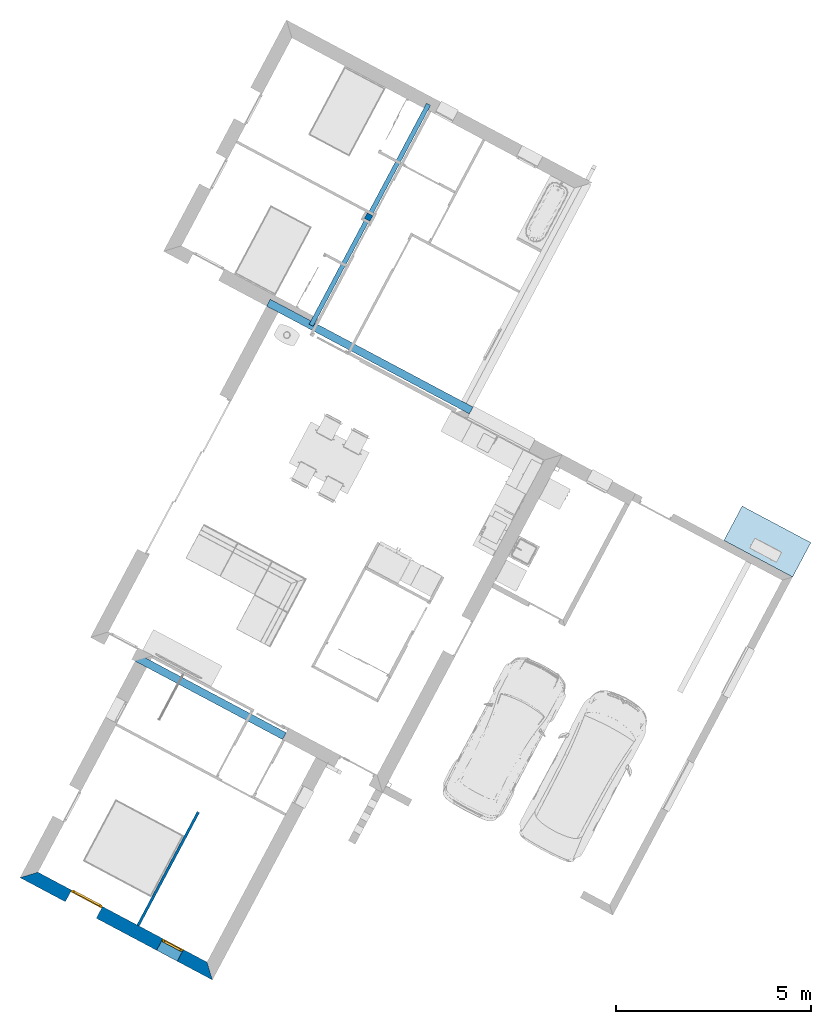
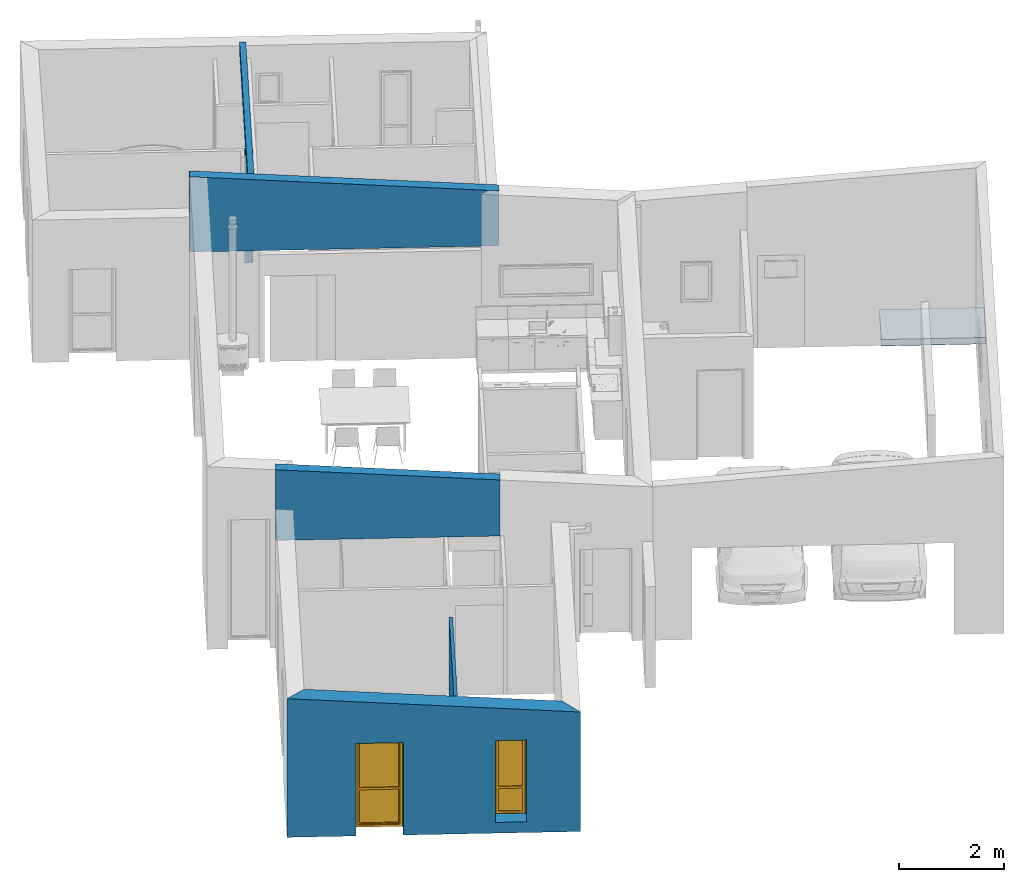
# One storey, part 1 of 27: 3 beams, 2 walls, 2 windows, 1 column, 1 slab, 2 openings.
"""IFC2X3 building model written with IfcOpenShell, lengths in metres."""

import ifcopenshell
import ifcopenshell.guid

model = None  # the IFC model being written
_history = None  # IfcOwnerHistory: only IFC2X3 demands one
_inside = {}  # id of a spatial element -> (the spatial element, [elements in it])
_under = {}  # id of a project, library or spatial element -> (it, [spatial elements below it])
_declared = {}  # id of a project -> (the project, [libraries it declares])
_typed = {}  # id of a type object -> (the type object, [elements of that type])
_made_of = {}  # id of a material, layer set ... -> (it, [elements and type objects made of it])


def new_model(schema):
    """Start an empty IFC model of exactly this schema.

    Asked for "IFC4X3", IfcOpenShell would pick the latest addendum, in which some entities
    have other attributes; the version numbers below select the first issue.
    IFC2X3 requires an IfcOwnerHistory on every rooted entity: one is made here for all.
    """
    global model, _history
    if schema == "IFC4X3":
        model = ifcopenshell.file(schema_version=(4, 3, 0, 0))
    else:
        model = ifcopenshell.file(schema=schema)
    _inside.clear()
    _under.clear()
    _declared.clear()
    _typed.clear()
    _made_of.clear()
    _history = None
    if model.schema == "IFC2X3":
        org = make("IfcOrganization", Name="unknown")
        user = make(
            "IfcPersonAndOrganization",
            ThePerson=make("IfcPerson", FamilyName="unknown"),
            TheOrganization=org,
        )
        app = make(
            "IfcApplication",
            ApplicationDeveloper=org,
            Version="unknown",
            ApplicationFullName="unknown",
            ApplicationIdentifier="unknown",
        )
        _history = make(
            "IfcOwnerHistory",
            OwningUser=user,
            OwningApplication=app,
            ChangeAction="ADDED",
            CreationDate=0,
        )
    return model


def make(cls, **values):
    """One entity of the class cls with the attributes given. An attribute that is None is left unset."""
    return model.create_entity(
        cls, **{name: value for name, value in values.items() if value is not None}
    )


def entity(cls, *values):
    """Any entity or typed value of the class cls, its attributes in the order of the schema. None: left unset."""
    e = model.create_entity(cls)
    for i, value in enumerate(values):
        if value is not None:
            e[i] = value
    return e


def rooted(cls, **values):
    """An entity with a GlobalId (a new one), such as an element, a storey or a relation."""
    return make(cls, GlobalId=ifcopenshell.guid.new(), OwnerHistory=_history, **values)


def si_unit(unit_type, name, prefix=None):
    """IfcSIUnit, for example si_unit("LENGTHUNIT", "METRE", prefix="MILLI")."""
    return make("IfcSIUnit", UnitType=unit_type, Prefix=prefix, Name=name)


def converted_unit(unit_type, name, factor, base, dimensions=None, offset=None):
    """IfcConversionBasedUnit, such as the inch: factor (a typed value) times the base unit."""
    return make(
        "IfcConversionBasedUnit"
        if offset is None
        else "IfcConversionBasedUnitWithOffset",
        ConversionOffset=offset,
        Dimensions=None
        if dimensions is None
        else entity("IfcDimensionalExponents", *dimensions),
        UnitType=unit_type,
        Name=name,
        ConversionFactor=make(
            "IfcMeasureWithUnit", ValueComponent=factor, UnitComponent=base
        ),
    )


def derived_unit(unit_type, elements):
    """IfcDerivedUnit: a product of units, each with its exponent."""
    return make(
        "IfcDerivedUnit",
        Elements=[
            make("IfcDerivedUnitElement", Unit=unit, Exponent=power)
            for unit, power in elements
        ],
        UnitType=unit_type,
    )


def money_unit(currency):
    """IfcMonetaryUnit."""
    return make("IfcMonetaryUnit", Currency=currency)


def assignment(units):
    """IfcUnitAssignment: the units of a project."""
    return None if units is None else make("IfcUnitAssignment", Units=units)


def point(xyz):
    """IfcCartesianPoint."""
    return None if xyz is None else make("IfcCartesianPoint", Coordinates=xyz)


def direction(xyz):
    """IfcDirection."""
    return None if xyz is None else make("IfcDirection", DirectionRatios=xyz)


def frame(location, z_axis=None, x_axis=None):
    """IfcAxis2Placement3D, a coordinate frame: its origin and axes. An axis left out is left unset."""
    return make(
        "IfcAxis2Placement3D",
        Location=point(location),
        Axis=direction(z_axis),
        RefDirection=direction(x_axis),
    )


def frame_2d(location, x_axis=None):
    """IfcAxis2Placement2D, a coordinate frame in the plane: its origin and x axis."""
    return make(
        "IfcAxis2Placement2D", Location=point(location), RefDirection=direction(x_axis)
    )


def origin_with_axes():
    """The frame at (0, 0, 0) with the z axis (0, 0, 1) and the x axis (1, 0, 0) written out."""
    return frame((0.0, 0.0, 0.0), z_axis=(0.0, 0.0, 1.0), x_axis=(1.0, 0.0, 0.0))


def origin_2d_with_axis():
    """The frame at (0, 0) in the plane with the x axis (1, 0) written out."""
    return frame_2d((0.0, 0.0), x_axis=(1.0, 0.0))


def place(relative_to, where):
    """IfcLocalPlacement: puts the frame where relative to a parent placement (None: the world)."""
    return make(
        "IfcLocalPlacement", PlacementRelTo=relative_to, RelativePlacement=where
    )


def context(
    kind, dimensions, precision=None, world=None, true_north=None, identifier=None
):
    """IfcGeometricRepresentationContext, for example the 3D "Model" context."""
    return make(
        "IfcGeometricRepresentationContext",
        ContextIdentifier=identifier,
        ContextType=kind,
        CoordinateSpaceDimension=dimensions,
        Precision=precision,
        WorldCoordinateSystem=world,
        TrueNorth=true_north,
    )


def subcontext(parent, identifier, kind, view, scale=None):
    """IfcGeometricRepresentationSubContext, for example "Body" below "Model"."""
    return make(
        "IfcGeometricRepresentationSubContext",
        ContextIdentifier=identifier,
        ContextType=kind,
        ParentContext=parent,
        TargetScale=scale,
        TargetView=view,
    )


def project(units=None, contexts=None):
    """IfcProject with its units and contexts."""
    return rooted(
        "IfcProject",
        Name="project",
        RepresentationContexts=contexts,
        UnitsInContext=assignment(units),
    )


def spatial(cls, under=None, at=None, **own):
    """A site, building, storey or space (cls), placed at a placement, below another one or the project."""
    s = rooted(cls, ObjectPlacement=at, **own)
    if under is not None:
        _under.setdefault(under.id(), (under, []))[1].append(s)
    return s


def polyline(points):
    """IfcPolyline through the points."""
    return make("IfcPolyline", Points=[point(p) for p in points])


def profile(cls, at=None, kind="AREA", **sizes):
    """A parametric profile (cls). Its sizes go by their IFC names, for example OverallWidth=200.0."""
    return make(cls, ProfileType=kind, Position=at, **sizes)


def rectangle(**sizes):
    """IfcRectangleProfileDef."""
    return profile("IfcRectangleProfileDef", **sizes)


def outline(outer, holes=None, kind="AREA"):
    """IfcArbitraryClosedProfileDef: a profile drawn as a closed curve; with holes, ...WithVoids."""
    if holes is None:
        return make("IfcArbitraryClosedProfileDef", ProfileType=kind, OuterCurve=outer)
    return make(
        "IfcArbitraryProfileDefWithVoids",
        ProfileType=kind,
        OuterCurve=outer,
        InnerCurves=holes,
    )


def extrude(swept, where, along, depth):
    """IfcExtrudedAreaSolid: the profile swept, set in the frame where, extruded along a direction by depth."""
    return make(
        "IfcExtrudedAreaSolid",
        SweptArea=swept,
        Position=where,
        ExtrudedDirection=direction(along),
        Depth=depth,
    )


def clip(a, b, op="DIFFERENCE"):
    """IfcBooleanClippingResult: the solid a cut by the half space b."""
    return make(
        "IfcBooleanClippingResult", Operator=op, FirstOperand=a, SecondOperand=b
    )


def halfspace(plane, agree):
    """IfcHalfSpaceSolid: all space on one side of the plane z = 0 of the frame plane."""
    return make(
        "IfcHalfSpaceSolid",
        BaseSurface=make("IfcPlane", Position=plane),
        AgreementFlag=agree,
    )


def bounded_halfspace(plane, agree, where, boundary):
    """IfcPolygonalBoundedHalfSpace: a half space limited to a polygon's prism."""
    return make(
        "IfcPolygonalBoundedHalfSpace",
        BaseSurface=make("IfcPlane", Position=plane),
        AgreementFlag=agree,
        Position=where,
        PolygonalBoundary=boundary,
    )


def faces_of(points, faces, orient=None, outer=None):
    """IfcFace entities. A face is a list of loops; a loop is a list of indices into points, from 0.

    orient and outer hold one flag for each loop. By default every Orientation is true, the
    first loop of a face is its IfcFaceOuterBound and the others are IfcFaceBound.
    """
    made = []
    for i, loops in enumerate(faces):
        bounds = []
        for j, loop in enumerate(loops):
            is_outer = j == 0 if outer is None else outer[i][j]
            bounds.append(
                make(
                    "IfcFaceOuterBound" if is_outer else "IfcFaceBound",
                    Bound=make("IfcPolyLoop", Polygon=[points[k] for k in loop]),
                    Orientation=True if orient is None else orient[i][j],
                )
            )
        made.append(make("IfcFace", Bounds=bounds))
    return made


def open_shell(faces, orient=None, outer=None):
    """The faces of one IfcOpenShell. surface_model builds it on its shared points."""
    return ("IfcOpenShell", faces, orient, outer)


def faceted_brep(points, faces, orient=None, outer=None, voids=None):
    """IfcFacetedBrep: a solid bounded by flat faces; with voids (closed shells), ...WithVoids."""
    shared = [point(p) for p in points]
    hull = make("IfcClosedShell", CfsFaces=faces_of(shared, faces, orient, outer))
    if voids is None:
        return make("IfcFacetedBrep", Outer=hull)
    return make(
        "IfcFacetedBrepWithVoids",
        Outer=hull,
        Voids=[
            make(cls, CfsFaces=faces_of(shared, fs, o, b)) for cls, fs, o, b in voids
        ],
    )


def surface_model(cls, points, shells):
    """IfcFaceBasedSurfaceModel or IfcShellBasedSurfaceModel (cls): surfaces that need not close."""
    shared = [point(p) for p in points]
    made = [make(c, CfsFaces=faces_of(shared, fs, o, b)) for c, fs, o, b in shells]
    if cls == "IfcFaceBasedSurfaceModel":
        return make(cls, FbsmFaces=made)
    return make(cls, SbsmBoundary=made)


def shape(context_of_items, identifier, shape_type, items):
    """IfcShapeRepresentation: the items that make up one representation, for example the "Body"."""
    return make(
        "IfcShapeRepresentation",
        ContextOfItems=context_of_items,
        RepresentationIdentifier=identifier,
        RepresentationType=shape_type,
        Items=items,
    )


def source(mapping_origin, context_of_items, identifier, shape_type, items):
    """IfcRepresentationMap: a shape defined once, which mapped items show again and again."""
    return make(
        "IfcRepresentationMap",
        MappingOrigin=mapping_origin,
        MappedRepresentation=shape(context_of_items, identifier, shape_type, items),
    )


def transform(
    local_origin,
    x_axis=None,
    y_axis=None,
    z_axis=None,
    scale=None,
    scale2=None,
    scale3=None,
    uniform=True,
):
    """IfcCartesianTransformationOperator3D, or its non-uniform kind. x_axis, y_axis, z_axis: its Axis1, 2, 3."""
    if uniform:
        return make(
            "IfcCartesianTransformationOperator3D",
            Axis1=direction(x_axis),
            Axis2=direction(y_axis),
            LocalOrigin=point(local_origin),
            Scale=scale,
            Axis3=direction(z_axis),
        )
    return make(
        "IfcCartesianTransformationOperator3DnonUniform",
        Axis1=direction(x_axis),
        Axis2=direction(y_axis),
        LocalOrigin=point(local_origin),
        Scale=scale,
        Axis3=direction(z_axis),
        Scale2=scale2,
        Scale3=scale3,
    )


def mapped(mapping_source, mapping_target):
    """IfcMappedItem: shows the shape of a source again, moved by a transform."""
    return make(
        "IfcMappedItem", MappingSource=mapping_source, MappingTarget=mapping_target
    )


def material(Name=None, Category=None):
    """IfcMaterial."""
    return make("IfcMaterial", Name=Name, Category=Category)


def layer(
    of_material, thickness, ventilated=None, Name=None, Category=None, Priority=None
):
    """IfcMaterialLayer: one layer of a wall or slab, of a material (None: an air gap)."""
    return make(
        "IfcMaterialLayer",
        Material=of_material,
        LayerThickness=thickness,
        IsVentilated=ventilated,
        Name=Name,
        Category=Category,
        Priority=Priority,
    )


def layer_set(layers, Name=None):
    """IfcMaterialLayerSet."""
    return make("IfcMaterialLayerSet", MaterialLayers=layers, LayerSetName=Name)


def layer_usage(for_layer_set, set_direction, sense, offset, extent=None):
    """IfcMaterialLayerSetUsage: how a layer set lies in its element."""
    return make(
        "IfcMaterialLayerSetUsage",
        ForLayerSet=for_layer_set,
        LayerSetDirection=set_direction,
        DirectionSense=sense,
        OffsetFromReferenceLine=offset,
        ReferenceExtent=extent,
    )


def made_of(thing, what):
    """Note that an element or type object is made of a material, layer set ...; save() writes the relation."""
    if what is not None:
        _made_of.setdefault(what.id(), (what, []))[1].append(thing)
    return thing


def type_object(cls, material=None, **own):
    """A type object (cls), such as IfcWallType, which elements share."""
    return made_of(rooted(cls, **own), material)


def element(
    cls,
    number,
    at=None,
    inside=None,
    cuts=None,
    type_object=None,
    material=None,
    context=None,
    identifier="Body",
    shape_type=None,
    held_by="IfcProductDefinitionShape",
    body=None,
    shapes=None,
    **own,
):
    """One element of the class cls, such as IfcWall. Its Tag is "e" and its number.

    at: its placement. inside: the storey or other place that contains it. cuts: it is an
    opening in that element (IfcRelVoidsElement). A single representation is given by context,
    identifier, shape_type and body (its items); several are given by shapes. held_by: the class
    of the entity that holds the representations. save() writes the other relations.
    """
    e = rooted(cls, Tag="e%d" % number, ObjectPlacement=at, **own)
    if body is not None:
        shapes = [shape(context, identifier, shape_type, body)]
    if shapes is not None:
        e.Representation = make(held_by, Representations=shapes)
    if inside is not None:
        _inside.setdefault(inside.id(), (inside, []))[1].append(e)
    if cuts is not None:
        rooted(
            "IfcRelVoidsElement", RelatingBuildingElement=cuts, RelatedOpeningElement=e
        )
    if type_object is not None:
        _typed.setdefault(type_object.id(), (type_object, []))[1].append(e)
    return made_of(e, material)


def fill(opening, filler):
    """IfcRelFillsElement: the door or window that sits in an opening."""
    return rooted(
        "IfcRelFillsElement",
        RelatingOpeningElement=opening,
        RelatedBuildingElement=filler,
    )


def aggregate(whole, parts):
    """IfcRelAggregates: a whole, such as a stair, and the parts it consists of."""
    return rooted("IfcRelAggregates", RelatingObject=whole, RelatedObjects=parts)


def save(model, path):
    """Write the relations noted so far, then the file.

    IfcRelAggregates (storeys below a building ...), IfcRelContainedInSpatialStructure (elements
    in a storey), IfcRelDefinesByType, IfcRelAssociatesMaterial and IfcRelDeclares: one each for
    every whole, place, type object, material and project.
    """
    for whole, parts in _under.values():
        aggregate(whole, parts)
    for where, things in _inside.values():
        rooted(
            "IfcRelContainedInSpatialStructure",
            RelatedElements=things,
            RelatingStructure=where,
        )
    for kind, things in _typed.values():
        rooted("IfcRelDefinesByType", RelatedObjects=things, RelatingType=kind)
    for what, things in _made_of.values():
        rooted("IfcRelAssociatesMaterial", RelatedObjects=things, RelatingMaterial=what)
    for by, libraries in _declared.values():
        rooted("IfcRelDeclares", RelatingContext=by, RelatedDefinitions=libraries)
    model.write(path)


model = new_model("IFC2X3")

# Units and contexts
model_context = context("Model", 3, precision=1e-05, world=origin_with_axes(), true_north=direction((0.0, 1.0)))
body_context = subcontext(model_context, "Body", "Model", "MODEL_VIEW")
ifc_project = project(units=[si_unit("LENGTHUNIT", "METRE"), si_unit("AREAUNIT", "SQUARE_METRE"), si_unit("VOLUMEUNIT", "CUBIC_METRE"), converted_unit("PLANEANGLEUNIT", "DEGREE", entity("IfcPlaneAngleMeasure", 0.0174532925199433), si_unit("PLANEANGLEUNIT", "RADIAN"), dimensions=[0, 0, 0, 0, 0, 0, 0]), money_unit("CHF"), converted_unit("TIMEUNIT", "Year", entity("IfcTimeMeasure", 31557600.0), si_unit("TIMEUNIT", "SECOND"), dimensions=[0, 0, 1, 0, 0, 0, 0]), si_unit("MASSUNIT", "GRAM", prefix="KILO"), si_unit("THERMODYNAMICTEMPERATUREUNIT", "DEGREE_CELSIUS"), si_unit("LUMINOUSINTENSITYUNIT", "LUMEN"), si_unit("ENERGYUNIT", "JOULE", prefix="MEGA"), derived_unit("THERMALCONDUCTANCEUNIT", [(si_unit("POWERUNIT", "WATT"), 1), (si_unit("LENGTHUNIT", "METRE"), -1), (si_unit("THERMODYNAMICTEMPERATUREUNIT", "KELVIN"), -1)]), derived_unit("SPECIFICHEATCAPACITYUNIT", [(si_unit("ENERGYUNIT", "JOULE"), 1), (si_unit("MASSUNIT", "GRAM", prefix="KILO"), -1), (si_unit("THERMODYNAMICTEMPERATUREUNIT", "KELVIN"), -1)]), derived_unit("MASSDENSITYUNIT", [(si_unit("MASSUNIT", "GRAM", prefix="KILO"), 1), (si_unit("VOLUMEUNIT", "CUBIC_METRE"), -1)])], contexts=[model_context])

# Site, building, storey
site_placement = place(None, frame((0.0, 0.0, 0.0), z_axis=(0.0, 0.0, 1.0), x_axis=(-0.4694715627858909, -0.8829475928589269, 0.0)))
site = spatial("IfcSite", under=ifc_project, at=site_placement, Name="Site", CompositionType="ELEMENT")
building_placement = place(site_placement, origin_with_axes())
building = spatial("IfcBuilding", under=site, at=building_placement, Name="Bâtiment", CompositionType="ELEMENT")
storey_placement = place(building_placement, origin_with_axes())
storey = spatial("IfcBuildingStorey", under=building, at=storey_placement, Name="RDC", CompositionType="ELEMENT", Elevation=0.0)

# Column
ifc_material_1 = material(Name="Bloc béton 2014500447")
column_type = type_object("IfcColumnType", Name="Bloc béton 2014500447 160 x 160", PredefinedType="NOTDEFINED")
column_placement = place(storey_placement, frame((130.6395710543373, -835.95459910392, 0.0), z_axis=(0.0, 0.0, 1.0), x_axis=(1.0, 0.0, 0.0)))
element("IfcColumn", 1, at=column_placement, inside=storey, type_object=column_type, material=ifc_material_1, Name="Pot-040", context=body_context, shape_type="SweptSolid", body=[
    extrude(rectangle(XDim=0.16, YDim=0.16, at=origin_2d_with_axis()), origin_with_axes(), (0.0, 0.0, 1.0), 2.55),
])

# Beams
ifc_material_2 = material(Name="Béton 3304368070")
beam_type_1 = type_object("IfcBeamType", Name="Béton 3304368070 200 x 2500", PredefinedType="NOTDEFINED")
beam_1_placement = place(storey_placement, frame((133.7895710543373, -831.2945991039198, 5.0), z_axis=(0.0, 0.0, 1.0), x_axis=(-1.0, 0.0, 0.0)))
element("IfcBeam", 2, at=beam_1_placement, inside=storey, type_object=beam_type_1, material=ifc_material_2, Name="Poutre-068", context=body_context, shape_type="Clipping", body=[
    clip(extrude(rectangle(XDim=2.5, YDim=0.2, at=frame_2d((-1.25, 0.0), x_axis=(1.0, 0.0))), frame((0.0, 0.0, 0.0), z_axis=(0.0, 1.0, 0.0), x_axis=(0.0, 0.0, 1.0)), (0.0, 0.0, 1.0), 5.899999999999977), halfspace(frame((0.0, -0.1017488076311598, -1.228139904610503), z_axis=(0.0, 0.07974522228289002, -0.9968152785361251), x_axis=(-1.0, 0.0, 0.0)), True)),
])
beam_2_placement = place(storey_placement, frame((143.4295710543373, -835.89459910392, 5.0), z_axis=(0.0, 0.0, 1.0), x_axis=(1.0, 0.0, 0.0)))
element("IfcBeam", 3, at=beam_2_placement, inside=storey, type_object=beam_type_1, material=ifc_material_2, Name="Poutre-068", context=body_context, shape_type="Clipping", body=[
    clip(extrude(rectangle(XDim=2.5, YDim=0.2, at=frame_2d((-1.25, 0.0), x_axis=(1.0, 0.0))), frame((0.0, 0.0, 0.0), z_axis=(0.0, 1.0, 0.0), x_axis=(0.0, 0.0, 1.0)), (0.0, 0.0, 1.0), 4.289999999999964), halfspace(frame((0.0, 0.1310015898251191, -0.8624801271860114), z_axis=(0.0, -0.07974522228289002, -0.9968152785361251), x_axis=(-1.0, 0.0, 0.0)), True)),
])
beam_type_2 = type_object("IfcBeamType", Name="Béton 3304368070 120 x 300", PredefinedType="NOTDEFINED")
beam_3_placement = place(storey_placement, frame((127.3595711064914, -835.95459910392, 2.85), z_axis=(0.0, 0.0, 1.0), x_axis=(0.0, -1.0, 0.0)))
element("IfcBeam", 4, at=beam_3_placement, inside=storey, type_object=beam_type_2, material=ifc_material_2, Name="Poutre-069", context=body_context, shape_type="Clipping", body=[
    clip(extrude(rectangle(XDim=0.2999999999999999, YDim=0.12, at=frame_2d((-0.1499999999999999, 0.0), x_axis=(1.0, 0.0))), frame((0.0, 0.0, 0.0), z_axis=(0.0, 1.0, 0.0), x_axis=(0.0, 0.0, 1.0)), (0.0, 0.0, 1.0), 6.429999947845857), bounded_halfspace(frame((0.0, -0.0191369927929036, -0.06078759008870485), z_axis=(0.0, 0.07974522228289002, -0.9968152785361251), x_axis=(-1.0, 0.0, 0.0)), True, frame((0.0, 0.0, -0.2999999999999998), z_axis=(0.0, 0.0, 1.0), x_axis=(0.0, 1.0, 0.0)), polyline([(-0.01, 0.07000000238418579), (-0.01, -0.07000000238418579), (6.329999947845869, -0.0700000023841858), (6.329999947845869, 0.07000000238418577), (-0.01, 0.07000000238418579)]))),
])

# Slab
ifc_material_3 = material(Name="Hachure vide 3286431593")
ifc_layer_1 = layer(ifc_material_3, 0.1499999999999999, ventilated="UNKNOWN")
ifc_layer_set_1 = layer_set([ifc_layer_1], Name="Hachure vide 3286431593 0.15")
ifc_layer_usage_1 = layer_usage(ifc_layer_set_1, "AXIS3", "NEGATIVE", 0.1499999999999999)
slab_type = type_object("IfcSlabType", Name="Hachure vide 3286431593 150", PredefinedType="FLOOR")
slab_placement = place(storey_placement, frame((133.6895710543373, -821.9945991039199, 0.0), z_axis=(0.0, 0.0, 1.0), x_axis=(1.0, 0.0, 0.0)))
element("IfcSlab", 5, at=slab_placement, inside=storey, type_object=slab_type, material=ifc_layer_usage_1, Name="terre plein", PredefinedType="FLOOR", context=body_context, shape_type="SweptSolid", body=[
    extrude(outline(polyline([(0.0, 0.0), (-1.0, 0.0), (-1.0, -2.0), (0.0, -2.0), (0.0, 0.0)])), frame((0.0, 0.0, -0.1499999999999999), z_axis=(0.0, 0.0, 1.0), x_axis=(1.0, 0.0, 0.0)), (0.0, 0.0, 1.0), 0.1499999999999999),
])

# Wall, openings, windows
ifc_material_4 = material(Name="Maçonnerie 290464332")
ifc_layer_2 = layer(ifc_material_4, 0.2, ventilated="UNKNOWN")
ifc_material_5 = material(Name="Isolation 272048125")
ifc_layer_3 = layer(ifc_material_5, 0.14, ventilated="UNKNOWN")
ifc_layer_set_2 = layer_set([ifc_layer_2, ifc_layer_3], Name="MUR EXT 34 0024849982")
ifc_layer_usage_2 = layer_usage(ifc_layer_set_2, "AXIS2", "NEGATIVE", 0.0)
wall_type_1 = type_object("IfcWallType", Name="MUR EXT 34 0024849982 340", PredefinedType="NOTDEFINED")
wall_1_placement = place(storey_placement, frame((149.8295710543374, -830.29459910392, 0.0), z_axis=(0.0, 0.0, 1.0), x_axis=(0.0, -1.0, 0.0)))
wall_1 = element("IfcWallStandardCase", 6, at=wall_1_placement, inside=storey, type_object=wall_type_1, material=ifc_layer_usage_2, Name="Mur-393", context=body_context, shape_type="Clipping", body=[
    clip(extrude(outline(polyline([(0.3400000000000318, -0.3400000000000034), (5.259999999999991, -0.3400000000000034), (5.600000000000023, 0.0), (0.0, 0.0), (0.3400000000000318, -0.3400000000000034)])), origin_with_axes(), (0.0, 0.0, 1.0), 5.0), halfspace(frame((-0.220985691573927, 0.0, 2.762321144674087), z_axis=(0.07974522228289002, 0.0, -0.9968152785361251), x_axis=(0.0, 1.0, 0.0)), True)),
])
opening_1_placement = place(wall_1_placement, frame((1.324999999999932, 0.0, 0.25), z_axis=(0.0, 0.0, 1.0), x_axis=(1.0, 0.0, 0.0)))
opening_1 = element("IfcOpeningElement", 7, at=opening_1_placement, cuts=wall_1, Name="Fen-156", context=body_context, shape_type="SweptSolid", body=[
    extrude(rectangle(XDim=0.599999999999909, YDim=1.9, at=origin_2d_with_axis()), frame((0.0, 0.3400000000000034, 0.9500000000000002), z_axis=(0.0, -1.0, 0.0), x_axis=(-1.0, 0.0, 0.0)), (0.0, 0.0, 1.0), 1.02),
])
opening_2_placement = place(wall_1_placement, frame((3.830000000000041, 0.0, 0.0), z_axis=(0.0, 0.0, 1.0), x_axis=(1.0, 0.0, 0.0)))
opening_2 = element("IfcOpeningElement", 8, at=opening_2_placement, cuts=wall_1, Name="Fen-155", context=body_context, shape_type="SweptSolid", body=[
    extrude(rectangle(XDim=0.900000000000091, YDim=2.15, at=origin_2d_with_axis()), frame((0.0, 0.3400000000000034, 1.075), z_axis=(0.0, -1.0, 0.0), x_axis=(1.0, 0.0, 0.0)), (0.0, 0.0, 1.0), 1.02),
])
window_style = type_object("IfcWindowStyle", Name="Fen à carreaux 10", ConstructionType="NOTDEFINED", OperationType="SINGLE_PANEL", ParameterTakesPrecedence=False, Sizeable=False)
shared_shape_1 = source(origin_with_axes(), body_context, "Body", "SurfaceModel", [
    faceted_brep([(-0.425, -0.05, 2.1), (-0.425, -0.02500000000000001, 2.1), (-0.4, -0.02500000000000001, 2.1), (-0.4, 0.0, 2.1), (-0.45, 0.0, 2.1), (-0.45, -0.05, 2.1), (-0.425, -0.05, 0.05000000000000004), (-0.425, -0.02500000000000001, 0.05000000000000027), (-0.4, -0.02500000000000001, 0.05000000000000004), (-0.4, 0.0, 0.05000000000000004), (-0.45, 0.0, 0.05000000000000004), (-0.45, -0.05, 0.05000000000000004)], [[[0, 1, 2, 3, 4, 5]], [[1, 0, 6, 7]], [[8, 2, 1, 7]], [[2, 8, 9, 3]], [[3, 9, 10, 4]], [[5, 4, 10, 11]], [[6, 0, 5, 11]], [[7, 6, 11, 10, 9, 8]]]),
    faceted_brep([(0.4, -0.02500000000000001, 2.1), (0.425, -0.02500000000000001, 2.1), (0.425, -0.05, 2.1), (0.45, -0.05, 2.1), (0.45, 0.0, 2.1), (0.4, 0.0, 2.1), (0.4, -0.02500000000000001, 0.05000000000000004), (0.425, -0.02500000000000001, 0.05000000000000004), (0.425, -0.05, 0.05000000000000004), (0.45, -0.05, 0.05000000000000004), (0.45, 0.0, 0.05000000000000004), (0.4, 0.0, 0.05000000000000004)], [[[0, 1, 2, 3, 4, 5]], [[1, 0, 6, 7]], [[8, 2, 1, 7]], [[2, 8, 9, 3]], [[9, 10, 4, 3]], [[4, 10, 11, 5]], [[6, 0, 5, 11]], [[7, 6, 11, 10, 9, 8]]]),
    faceted_brep([(-0.425, -0.05, 2.1), (-0.425, -0.05, 2.125), (0.425, -0.05, 2.125), (0.425, -0.05, 2.1), (0.45, -0.05, 2.1), (0.45, -0.05, 2.15), (-0.45, -0.05, 2.15), (-0.45, -0.05, 2.1), (-0.425, -0.02500000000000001, 2.1), (-0.425, -0.02500000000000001, 2.125), (0.425, -0.02500000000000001, 2.125), (0.425, -0.02500000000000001, 2.1), (0.4, -0.02500000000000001, 2.1), (0.4, 0.0, 2.1), (0.45, 0.0, 2.1), (0.45, 0.0, 2.15), (-0.45, 0.0, 2.15), (-0.45, 0.0, 2.1), (-0.4, 0.0, 2.1), (-0.4, -0.02500000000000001, 2.1)], [[[0, 1, 2, 3, 4, 5, 6, 7]], [[1, 0, 8, 9]], [[2, 1, 9, 10]], [[3, 2, 10, 11]], [[11, 12, 13, 14, 4, 3]], [[4, 14, 15, 5]], [[5, 15, 16, 6]], [[6, 16, 17, 7]], [[8, 0, 7, 17, 18, 19]], [[12, 11, 10, 9, 8, 19]], [[12, 19, 18, 13]], [[18, 17, 16, 15, 14, 13]]]),
    faceted_brep([(0.4, -0.02500000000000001, 0.05000000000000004), (0.425, -0.02500000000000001, 0.05000000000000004), (0.425, -0.05, 0.05000000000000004), (0.45, -0.05, 0.05000000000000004), (0.45, 0.0, 0.05000000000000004), (0.4, 0.0, 0.05000000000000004), (-0.4, -0.02500000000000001, 0.05000000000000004), (-0.425, -0.02500000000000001, 0.05000000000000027), (-0.425, -0.02500000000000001, 0.02499999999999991), (0.425, -0.02500000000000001, 0.02499999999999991), (0.425, -0.05, 0.02499999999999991), (-0.425, -0.05, 0.02499999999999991), (-0.425, -0.05, 0.05000000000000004), (-0.45, -0.05, 0.05000000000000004), (-0.45, -0.05, 0.0), (0.45, -0.05, 0.0), (0.45, 0.0, 0.0), (-0.45, 0.0, 0.0), (-0.45, 0.0, 0.05000000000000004), (-0.4, 0.0, 0.05000000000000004)], [[[0, 1, 2, 3, 4, 5]], [[1, 0, 6, 7, 8, 9]], [[10, 2, 1, 9]], [[11, 12, 13, 14, 15, 3, 2, 10]], [[15, 16, 4, 3]], [[16, 17, 18, 19, 5, 4]], [[6, 0, 5, 19]], [[7, 6, 19, 18, 13, 12]], [[7, 12, 11, 8]], [[11, 10, 9, 8]], [[13, 18, 17, 14]], [[14, 17, 16, 15]]]),
    surface_model("IfcShellBasedSurfaceModel", [(-0.375, -0.04, 0.07500000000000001), (-0.375, -0.04, 0.8500000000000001), (0.375, -0.04, 0.8500000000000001), (0.375, -0.04, 0.07500000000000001)], [open_shell([[[0, 1, 2, 3]]])]),
    surface_model("IfcShellBasedSurfaceModel", [(-0.375, -0.06, 0.07500000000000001), (0.375, -0.06, 0.07500000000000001), (0.375, -0.06, 0.8500000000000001), (-0.375, -0.06, 0.8500000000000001)], [open_shell([[[0, 1, 2, 3]]])]),
    surface_model("IfcShellBasedSurfaceModel", [(-0.375, -0.04, 0.9), (-0.375, -0.04, 2.075), (0.375, -0.04, 2.075), (0.375, -0.04, 0.9)], [open_shell([[[0, 1, 2, 3]]])]),
    surface_model("IfcShellBasedSurfaceModel", [(-0.375, -0.06, 0.9), (0.375, -0.06, 0.9), (0.375, -0.06, 2.075), (-0.375, -0.06, 2.075)], [open_shell([[[0, 1, 2, 3]]])]),
    faceted_brep([(-0.375, -0.02500000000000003, 0.07500000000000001), (-0.375, -0.02500000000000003, 2.075), (-0.375, -0.07500000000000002, 2.075), (-0.375, -0.07500000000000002, 0.07500000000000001), (-0.425, -0.02500000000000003, 0.07500000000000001), (-0.425, -0.02500000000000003, 2.075), (-0.425, -0.07500000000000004, 2.075), (-0.425, -0.07500000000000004, 0.07500000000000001)], [[[0, 1, 2, 3]], [[0, 4, 5, 1]], [[1, 5, 6, 2]], [[3, 2, 6, 7]], [[4, 0, 3, 7]], [[5, 4, 7, 6]]]),
    faceted_brep([(0.425, -0.02499999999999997, 0.07500000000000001), (0.425, -0.02499999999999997, 2.075), (0.425, -0.07499999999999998, 2.075), (0.425, -0.07499999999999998, 0.07500000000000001), (0.375, -0.02499999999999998, 0.07500000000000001), (0.375, -0.02499999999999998, 2.075), (0.375, -0.07499999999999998, 2.075), (0.375, -0.07499999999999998, 0.07500000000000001)], [[[0, 1, 2, 3]], [[0, 4, 5, 1]], [[1, 5, 6, 2]], [[3, 2, 6, 7]], [[4, 0, 3, 7]], [[5, 4, 7, 6]]]),
    faceted_brep([(-0.375, -0.02500000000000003, 0.9), (-0.375, -0.02500000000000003, 0.85), (-0.375, -0.07500000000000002, 0.85), (-0.375, -0.07500000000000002, 0.9), (0.375, -0.02499999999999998, 0.9), (0.375, -0.02499999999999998, 0.85), (0.375, -0.07499999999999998, 0.85), (0.375, -0.07499999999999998, 0.9)], [[[0, 1, 2, 3]], [[0, 4, 5, 1]], [[1, 5, 6, 2]], [[3, 2, 6, 7]], [[4, 0, 3, 7]], [[5, 4, 7, 6]]]),
    faceted_brep([(-0.425, -0.02500000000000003, 0.025), (0.425, -0.02499999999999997, 0.025), (0.425, -0.07499999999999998, 0.025), (-0.425, -0.07500000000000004, 0.025), (-0.425, -0.02500000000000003, 0.07500000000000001), (-0.375, -0.02500000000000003, 0.07500000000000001), (0.375, -0.02499999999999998, 0.07500000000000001), (0.425, -0.02499999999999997, 0.07500000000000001), (0.425, -0.07499999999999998, 0.07500000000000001), (0.375, -0.07499999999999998, 0.07500000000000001), (-0.375, -0.07500000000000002, 0.07500000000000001), (-0.425, -0.07500000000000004, 0.07500000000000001)], [[[0, 1, 2, 3]], [[0, 4, 5, 6, 7, 1]], [[1, 7, 8, 2]], [[3, 2, 8, 9, 10, 11]], [[4, 0, 3, 11]], [[5, 4, 11, 10]], [[6, 5, 10, 9]], [[7, 6, 9, 8]]]),
    faceted_brep([(-0.425, -0.02500000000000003, 2.075), (-0.375, -0.02500000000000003, 2.075), (-0.375, -0.07500000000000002, 2.075), (-0.425, -0.07500000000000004, 2.075), (-0.425, -0.02500000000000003, 2.125), (0.425, -0.02499999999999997, 2.125), (0.425, -0.02499999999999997, 2.075), (0.375, -0.02499999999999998, 2.075), (0.375, -0.07499999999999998, 2.075), (0.425, -0.07499999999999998, 2.075), (0.425, -0.07499999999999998, 2.125), (-0.425, -0.07500000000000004, 2.125)], [[[0, 1, 2, 3]], [[0, 4, 5, 6, 7, 1]], [[1, 7, 8, 2]], [[3, 2, 8, 9, 10, 11]], [[4, 0, 3, 11]], [[5, 4, 11, 10]], [[6, 5, 10, 9]], [[7, 6, 9, 8]]]),
])
window_1_placement = place(opening_2_placement, frame((-0.4500000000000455, 0.0, 0.0), z_axis=(0.0, 0.0, 1.0), x_axis=(1.0, 0.0, 0.0)))
window_1 = element("IfcWindow", 9, at=window_1_placement, inside=storey, type_object=window_style, Name="Fen-155", OverallHeight=2.15, OverallWidth=0.9, context=body_context, shape_type="MappedRepresentation", body=[
    mapped(shared_shape_1, transform((0.4500000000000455, -0.289999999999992, 0.0))),
])
fill(opening_2, window_1)
shared_shape_2 = source(origin_with_axes(), body_context, "Body", "SurfaceModel", [
    faceted_brep([(-0.275, -0.05, 1.85), (-0.275, -0.02500000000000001, 1.85), (-0.25, -0.02500000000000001, 1.85), (-0.25, 0.0, 1.85), (-0.3, 0.0, 1.85), (-0.3, -0.05, 1.85), (-0.275, -0.05, 0.05000000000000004), (-0.275, -0.02500000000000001, 0.05000000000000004), (-0.25, -0.02500000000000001, 0.05000000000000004), (-0.25, 0.0, 0.05000000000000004), (-0.3, 0.0, 0.05000000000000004), (-0.3, -0.05, 0.05000000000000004)], [[[0, 1, 2, 3, 4, 5]], [[1, 0, 6, 7]], [[8, 2, 1, 7]], [[2, 8, 9, 3]], [[3, 9, 10, 4]], [[5, 4, 10, 11]], [[6, 0, 5, 11]], [[7, 6, 11, 10, 9, 8]]]),
    faceted_brep([(0.25, -0.02500000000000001, 1.85), (0.275, -0.02500000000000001, 1.85), (0.275, -0.05, 1.85), (0.3, -0.05, 1.85), (0.3, 0.0, 1.85), (0.25, 0.0, 1.85), (0.25, -0.02500000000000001, 0.05000000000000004), (0.275, -0.02500000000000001, 0.05000000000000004), (0.275, -0.05, 0.05000000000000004), (0.3, -0.05, 0.05000000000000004), (0.3, 0.0, 0.05000000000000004), (0.25, 0.0, 0.05000000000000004)], [[[0, 1, 2, 3, 4, 5]], [[1, 0, 6, 7]], [[8, 2, 1, 7]], [[2, 8, 9, 3]], [[9, 10, 4, 3]], [[4, 10, 11, 5]], [[6, 0, 5, 11]], [[7, 6, 11, 10, 9, 8]]]),
    faceted_brep([(-0.275, -0.05, 1.85), (-0.275, -0.05, 1.875), (0.275, -0.05, 1.875), (0.275, -0.05, 1.85), (0.3, -0.05, 1.85), (0.3, -0.05, 1.9), (-0.3, -0.05, 1.9), (-0.3, -0.05, 1.85), (-0.275, -0.02500000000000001, 1.85), (-0.275, -0.02500000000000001, 1.875), (0.275, -0.02500000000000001, 1.875), (0.275, -0.02500000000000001, 1.85), (0.25, -0.02500000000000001, 1.85), (0.25, 0.0, 1.85), (0.3, 0.0, 1.85), (0.3, 0.0, 1.9), (-0.3, 0.0, 1.9), (-0.3, 0.0, 1.85), (-0.25, 0.0, 1.85), (-0.25, -0.02500000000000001, 1.85)], [[[0, 1, 2, 3, 4, 5, 6, 7]], [[1, 0, 8, 9]], [[2, 1, 9, 10]], [[3, 2, 10, 11]], [[11, 12, 13, 14, 4, 3]], [[4, 14, 15, 5]], [[5, 15, 16, 6]], [[6, 16, 17, 7]], [[8, 0, 7, 17, 18, 19]], [[12, 11, 10, 9, 8, 19]], [[12, 19, 18, 13]], [[18, 17, 16, 15, 14, 13]]]),
    faceted_brep([(0.25, -0.02500000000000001, 0.05000000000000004), (0.275, -0.02500000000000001, 0.05000000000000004), (0.275, -0.05, 0.05000000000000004), (0.3, -0.05, 0.05000000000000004), (0.3, 0.0, 0.05000000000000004), (0.25, 0.0, 0.05000000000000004), (-0.25, -0.02500000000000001, 0.05000000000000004), (-0.275, -0.02500000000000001, 0.05000000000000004), (-0.275, -0.02500000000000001, 0.02500000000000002), (0.275, -0.02500000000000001, 0.02500000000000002), (0.275, -0.05, 0.02500000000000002), (-0.275, -0.05, 0.02500000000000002), (-0.275, -0.05, 0.05000000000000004), (-0.3, -0.05, 0.05000000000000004), (-0.3, -0.05, 0.0), (0.3, -0.05, 0.0), (0.3, 0.0, 0.0), (-0.3, 0.0, 0.0), (-0.3, 0.0, 0.05000000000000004), (-0.25, 0.0, 0.05000000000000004)], [[[0, 1, 2, 3, 4, 5]], [[1, 0, 6, 7, 8, 9]], [[10, 2, 1, 9]], [[11, 12, 13, 14, 15, 3, 2, 10]], [[15, 16, 4, 3]], [[16, 17, 18, 19, 5, 4]], [[6, 0, 5, 19]], [[7, 6, 19, 18, 13, 12]], [[7, 12, 11, 8]], [[11, 10, 9, 8]], [[13, 18, 17, 14]], [[14, 17, 16, 15]]]),
    surface_model("IfcShellBasedSurfaceModel", [(-0.225, -0.04, 0.07500000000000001), (-0.225, -0.04, 0.6000000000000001), (0.225, -0.04, 0.6000000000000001), (0.225, -0.04, 0.07500000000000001)], [open_shell([[[0, 1, 2, 3]]])]),
    surface_model("IfcShellBasedSurfaceModel", [(-0.225, -0.06, 0.07500000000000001), (0.225, -0.06, 0.07500000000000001), (0.225, -0.06, 0.6000000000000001), (-0.225, -0.06, 0.6000000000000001)], [open_shell([[[0, 1, 2, 3]]])]),
    surface_model("IfcShellBasedSurfaceModel", [(-0.225, -0.04, 0.65), (-0.225, -0.04, 1.825), (0.225, -0.04, 1.825), (0.225, -0.04, 0.65)], [open_shell([[[0, 1, 2, 3]]])]),
    surface_model("IfcShellBasedSurfaceModel", [(-0.225, -0.06, 0.65), (0.225, -0.06, 0.65), (0.225, -0.06, 1.825), (-0.225, -0.06, 1.825)], [open_shell([[[0, 1, 2, 3]]])]),
    faceted_brep([(-0.225, -0.02500000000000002, 0.07500000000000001), (-0.225, -0.02500000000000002, 1.825), (-0.225, -0.07500000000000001, 1.825), (-0.225, -0.07500000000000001, 0.07500000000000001), (-0.275, -0.02500000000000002, 0.07500000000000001), (-0.275, -0.02500000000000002, 1.825), (-0.275, -0.07500000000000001, 1.825), (-0.275, -0.07500000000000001, 0.07500000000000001)], [[[0, 1, 2, 3]], [[0, 4, 5, 1]], [[1, 5, 6, 2]], [[3, 2, 6, 7]], [[4, 0, 3, 7]], [[5, 4, 7, 6]]]),
    faceted_brep([(0.275, -0.02499999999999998, 0.07500000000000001), (0.275, -0.02499999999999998, 1.825), (0.275, -0.07499999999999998, 1.825), (0.275, -0.07499999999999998, 0.07500000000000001), (0.225, -0.02499999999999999, 0.07500000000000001), (0.225, -0.02499999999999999, 1.825), (0.225, -0.07499999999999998, 1.825), (0.225, -0.07499999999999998, 0.07500000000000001)], [[[0, 1, 2, 3]], [[0, 4, 5, 1]], [[1, 5, 6, 2]], [[3, 2, 6, 7]], [[4, 0, 3, 7]], [[5, 4, 7, 6]]]),
    faceted_brep([(-0.225, -0.02500000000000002, 0.65), (-0.225, -0.02500000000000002, 0.6), (-0.225, -0.07500000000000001, 0.6), (-0.225, -0.07500000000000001, 0.65), (0.225, -0.02499999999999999, 0.65), (0.225, -0.02499999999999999, 0.6), (0.225, -0.07499999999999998, 0.6), (0.225, -0.07499999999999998, 0.65)], [[[0, 1, 2, 3]], [[0, 4, 5, 1]], [[1, 5, 6, 2]], [[3, 2, 6, 7]], [[4, 0, 3, 7]], [[5, 4, 7, 6]]]),
    faceted_brep([(-0.275, -0.02500000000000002, 0.025), (0.275, -0.02499999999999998, 0.025), (0.275, -0.07499999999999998, 0.025), (-0.275, -0.07500000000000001, 0.025), (-0.275, -0.02500000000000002, 0.07500000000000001), (-0.225, -0.02500000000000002, 0.07500000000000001), (0.225, -0.02499999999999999, 0.07500000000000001), (0.275, -0.02499999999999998, 0.07500000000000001), (0.275, -0.07499999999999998, 0.07500000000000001), (0.225, -0.07499999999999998, 0.07500000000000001), (-0.225, -0.07500000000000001, 0.07500000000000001), (-0.275, -0.07500000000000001, 0.07500000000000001)], [[[0, 1, 2, 3]], [[0, 4, 5, 6, 7, 1]], [[1, 7, 8, 2]], [[3, 2, 8, 9, 10, 11]], [[4, 0, 3, 11]], [[5, 4, 11, 10]], [[6, 5, 10, 9]], [[7, 6, 9, 8]]]),
    faceted_brep([(-0.275, -0.02500000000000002, 1.825), (-0.225, -0.02500000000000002, 1.825), (-0.225, -0.07500000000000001, 1.825), (-0.275, -0.07500000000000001, 1.825), (-0.275, -0.02500000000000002, 1.875), (0.275, -0.02499999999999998, 1.875), (0.275, -0.02499999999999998, 1.825), (0.225, -0.02499999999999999, 1.825), (0.225, -0.07499999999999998, 1.825), (0.275, -0.07499999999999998, 1.825), (0.275, -0.07499999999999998, 1.875), (-0.275, -0.07500000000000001, 1.875)], [[[0, 1, 2, 3]], [[0, 4, 5, 6, 7, 1]], [[1, 7, 8, 2]], [[3, 2, 8, 9, 10, 11]], [[4, 0, 3, 11]], [[5, 4, 11, 10]], [[6, 5, 10, 9]], [[7, 6, 9, 8]]]),
])
window_2_placement = place(opening_1_placement, frame((0.2999999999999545, 0.0, 0.0), z_axis=(0.0, 0.0, 1.0), x_axis=(-1.0, 0.0, 0.0)))
window_2 = element("IfcWindow", 10, at=window_2_placement, inside=storey, type_object=window_style, Name="Fen-156", OverallHeight=1.9, OverallWidth=0.6, context=body_context, shape_type="MappedRepresentation", body=[
    mapped(shared_shape_2, transform((0.2999999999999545, 0.3400000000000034, 0.0))),
])
fill(opening_1, window_2)

# Wall
ifc_material_6 = material(Name="Isolation 269295175")
ifc_layer_4 = layer(ifc_material_6, 0.07, ventilated="UNKNOWN")
ifc_layer_set_3 = layer_set([ifc_layer_4], Name="CLOISON 7 0024849982")
ifc_layer_usage_3 = layer_usage(ifc_layer_set_3, "AXIS2", "NEGATIVE", 0.0)
wall_type_2 = type_object("IfcWallType", Name="CLOISON 7 0024849982 70", PredefinedType="NOTDEFINED")
wall_2_placement = place(storey_placement, frame((146.1895710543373, -832.60459910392, 0.0), z_axis=(0.0, 0.0, 1.0), x_axis=(1.0, 0.0, 0.0)))
element("IfcWallStandardCase", 11, at=wall_2_placement, inside=storey, type_object=wall_type_2, material=ifc_layer_usage_3, Name="Mur-394", context=body_context, shape_type="SweptSolid", body=[
    extrude(outline(polyline([(0.0, -0.07000000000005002), (3.300000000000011, -0.07000000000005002), (3.300000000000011, 0.0), (0.0, 0.0), (0.0, -0.07000000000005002)])), origin_with_axes(), (0.0, 0.0, 1.0), 2.5),
])

save(model, "model.ifc")
